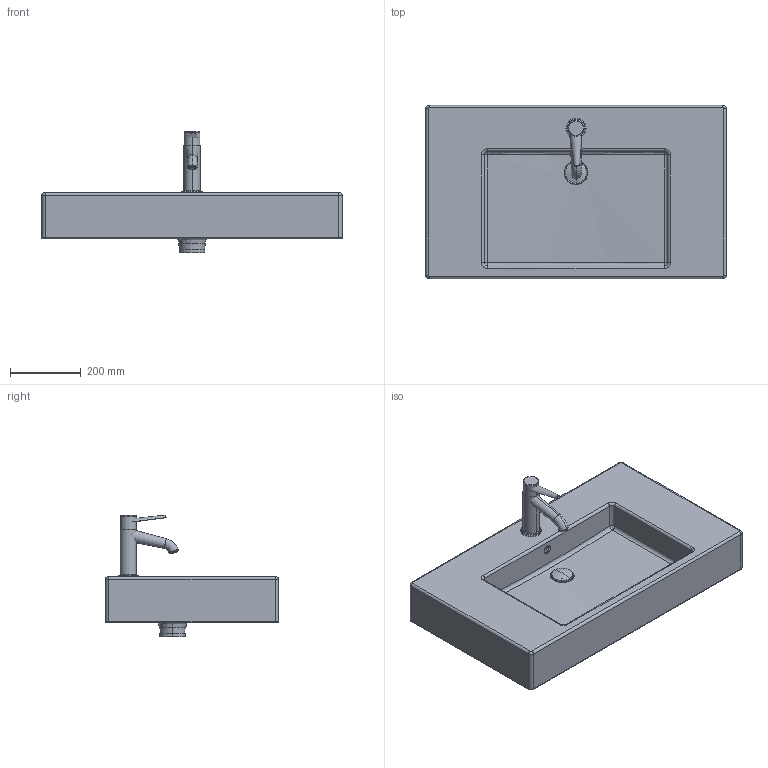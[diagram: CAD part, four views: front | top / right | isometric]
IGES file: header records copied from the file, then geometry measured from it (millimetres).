
Global section: file name: No Iges File Name specified; native system: AutoDesk Inventor R11.0; preprocessor: AutoDesk Inventor Iges Exporter R11.0; author: No Author specified; organization: No Organization specified; date: 20071005.144409; units: millimetre
Bounding box: 850 x 490 x 344.77 mm (x, y, z)
Volume: 29455022.4 mm3; surface area: 1565249.6 mm2
Topology: 7 solids, 7 shells, 190 faces, 433 edges, 260 vertices
Faces by surface type: cylinder 45, plane 44, revolution 36, torus 30, bspline 29, cone 6
